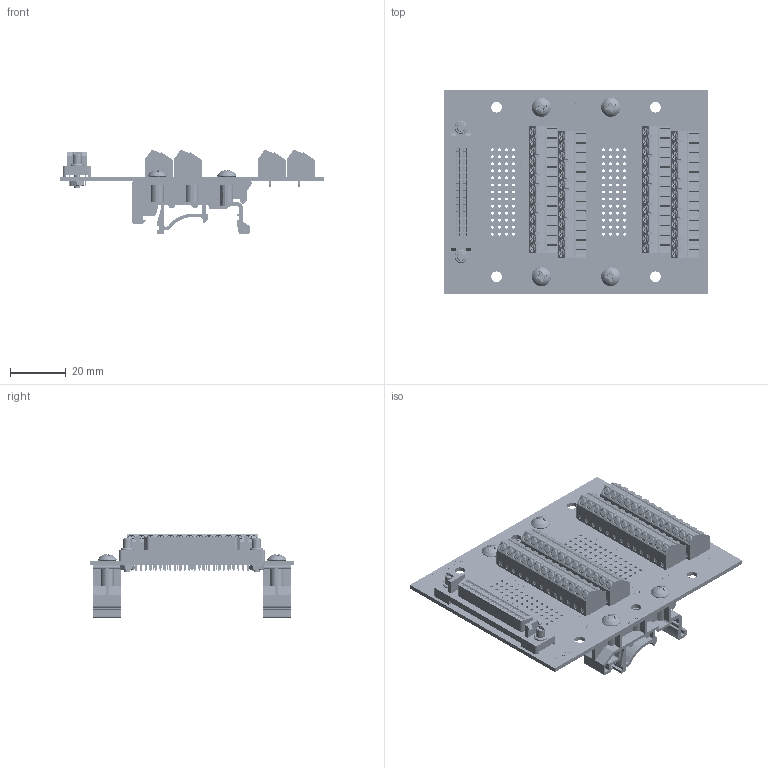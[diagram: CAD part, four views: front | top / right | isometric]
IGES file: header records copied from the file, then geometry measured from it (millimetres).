
Start section: SolidWorks IGES file using analytic representation for surfaces
Global section: file name: C:\Users\Jonny\Documents\Winford Engineering Jobs\BRKBDP50FV1-SB\brkbdp50fv1-sb-din_rev_a.igs; native system: SolidWorks 2017; preprocessor: SolidWorks 2017; author: Jonny; date: 180311.223612; units: inch
Bounding box: 95.25 x 73.66 x 30.27 mm (x, y, z)
Surface area: 42821.2 mm2 (no closed solid volume)
Topology: 0 solids, 0 shells, 9708 faces, 67213 edges, 67109 vertices
Faces by surface type: bspline 8083, revolution 1625
